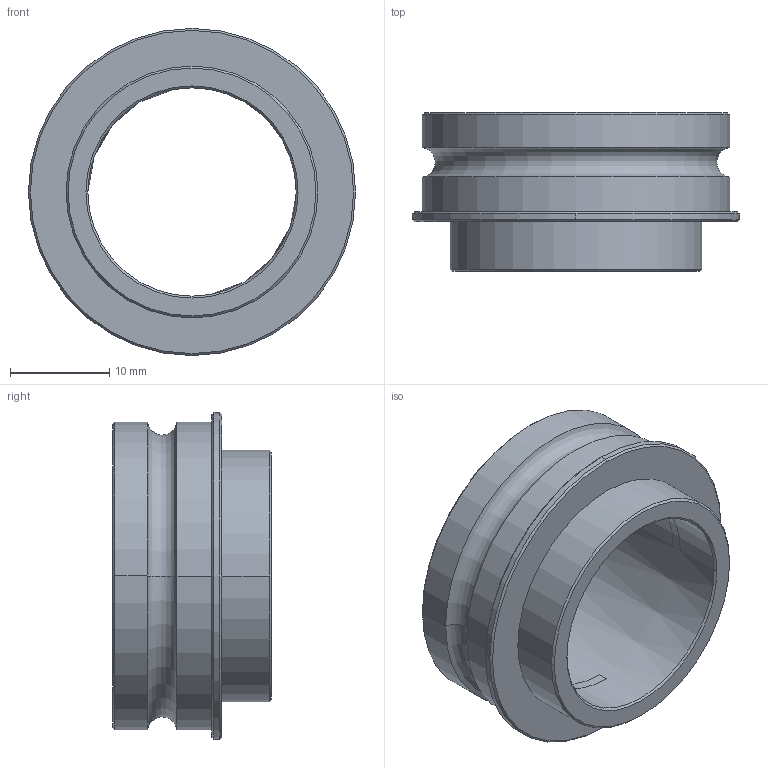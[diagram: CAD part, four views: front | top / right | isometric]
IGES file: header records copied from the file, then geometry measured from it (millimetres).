
Start section:  PTC IGES file: uc3-a05.igs
Global section: file name: uc3-a05.igs; native system: Creo Parametric by PTC Inc.; preprocessor: 2016130; author: Eric; organization: Unknown; date: 20171006.134034; units: millimetre
Bounding box: 33 x 16 x 33 mm (x, y, z)
Surface area: 3597.1 mm2 (no closed solid volume)
Topology: 0 solids, 0 shells, 28 faces, 128 edges, 128 vertices
Faces by surface type: revolution 24, bspline 4
